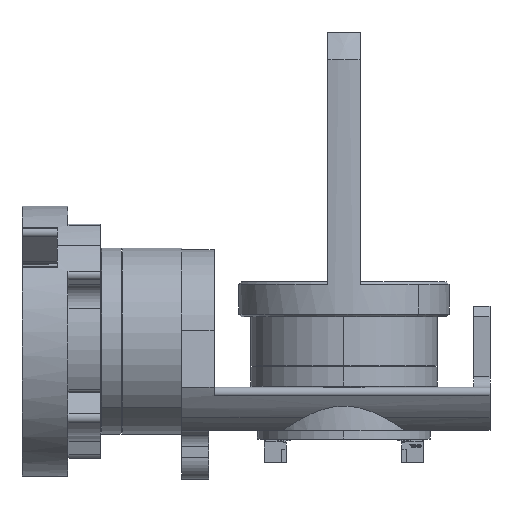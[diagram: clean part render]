
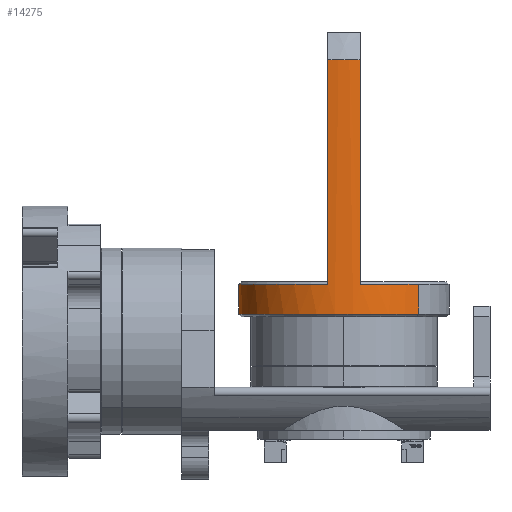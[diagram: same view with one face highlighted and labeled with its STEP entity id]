
A CAD part, left-side view. The second image highlights one B-rep face of the part: STEP entity #14275.
In plain terms, the highlighted cylindrical face has radius 19.5 mm (diameter 39 mm), a partial arc.
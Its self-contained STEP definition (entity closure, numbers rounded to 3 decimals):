
#1001 = AXIS2_PLACEMENT_3D ( 'NONE', #70452, #51198, #52841 ) ;
#13794 = AXIS2_PLACEMENT_3D ( 'NONE', #52822, #41514, #72063 ) ;
#14275 = ADVANCED_FACE ( 'NONE', ( #65257 ), #70720, .T. ) ;
#14288 = ORIENTED_EDGE ( 'NONE', *, *, #21130, .F. ) ;
#14315 = DIRECTION ( 'NONE',  ( 0., -1., 0. ) ) ;
#15088 = AXIS2_PLACEMENT_3D ( 'NONE', #81356, #60918, #24017 ) ;
#15270 = LINE ( 'NONE', #34112, #54639 ) ;
#15764 = DIRECTION ( 'NONE',  ( 0., -1., 0. ) ) ;
#16905 = VECTOR ( 'NONE', #23346, 1000. ) ;
#18787 = CARTESIAN_POINT ( 'NONE',  ( -15.746, 4., 11.503 ) ) ;
#19492 = VERTEX_POINT ( 'NONE', #22738 ) ;
#21130 = EDGE_CURVE ( 'NONE', #24214, #45212, #29617, .T. ) ;
#21418 = CARTESIAN_POINT ( 'NONE',  ( 0., 0., -19.5 ) ) ;
#22148 = CARTESIAN_POINT ( 'NONE',  ( 0., 4., 19.5 ) ) ;
#22193 = EDGE_CURVE ( 'NONE', #48317, #45212, #29872, .T. ) ;
#22253 = VECTOR ( 'NONE', #75291, 1000. ) ;
#22738 = CARTESIAN_POINT ( 'NONE',  ( 0., 4., -19.5 ) ) ;
#23346 = DIRECTION ( 'NONE',  ( 0., -1., 0. ) ) ;
#23794 = LINE ( 'NONE', #74883, #22253 ) ;
#24017 = DIRECTION ( 'NONE',  ( 0., 0., 1. ) ) ;
#24173 = EDGE_LOOP ( 'NONE', ( #24376, #56641, #14288, #56103, #58214, #64907, #42788, #64869 ) ) ;
#24214 = VERTEX_POINT ( 'NONE', #27495 ) ;
#24376 = ORIENTED_EDGE ( 'NONE', *, *, #24501, .F. ) ;
#24501 = EDGE_CURVE ( 'NONE', #48317, #77605, #15270, .T. ) ;
#27495 = CARTESIAN_POINT ( 'NONE',  ( -11.503, 45.5, 15.746 ) ) ;
#29617 = LINE ( 'NONE', #66502, #16905 ) ;
#29872 = CIRCLE ( 'NONE', #13794, 19.5 ) ;
#32755 = CARTESIAN_POINT ( 'NONE',  ( -11.503, 4., 15.746 ) ) ;
#34112 = CARTESIAN_POINT ( 'NONE',  ( 0., 0., 19.5 ) ) ;
#36549 = EDGE_CURVE ( 'NONE', #19492, #59775, #65832, .T. ) ;
#37016 = EDGE_CURVE ( 'NONE', #24214, #49278, #59561, .T. ) ;
#37101 = CIRCLE ( 'NONE', #1001, 19.5 ) ;
#38116 = VECTOR ( 'NONE', #14315, 1000. ) ;
#38211 = EDGE_CURVE ( 'NONE', #49278, #55061, #23794, .T. ) ;
#40009 = CARTESIAN_POINT ( 'NONE',  ( 0., -1.5, -19.5 ) ) ;
#41514 = DIRECTION ( 'NONE',  ( 0., -1., 0. ) ) ;
#42788 = ORIENTED_EDGE ( 'NONE', *, *, #36549, .T. ) ;
#44377 = DIRECTION ( 'NONE',  ( 0., -1., 0. ) ) ;
#44412 = AXIS2_PLACEMENT_3D ( 'NONE', #78226, #44377, #64025 ) ;
#45212 = VERTEX_POINT ( 'NONE', #32755 ) ;
#48317 = VERTEX_POINT ( 'NONE', #22148 ) ;
#48893 = AXIS2_PLACEMENT_3D ( 'NONE', #59737, #15764, #72307 ) ;
#49278 = VERTEX_POINT ( 'NONE', #74673 ) ;
#51198 = DIRECTION ( 'NONE',  ( 0., 1., 0. ) ) ;
#52822 = CARTESIAN_POINT ( 'NONE',  ( 0., 4., 0. ) ) ;
#52841 = DIRECTION ( 'NONE',  ( 0., 0., -1. ) ) ;
#54639 = VECTOR ( 'NONE', #58810, 1000. ) ;
#55061 = VERTEX_POINT ( 'NONE', #18787 ) ;
#56103 = ORIENTED_EDGE ( 'NONE', *, *, #37016, .T. ) ;
#56641 = ORIENTED_EDGE ( 'NONE', *, *, #22193, .T. ) ;
#58214 = ORIENTED_EDGE ( 'NONE', *, *, #38211, .T. ) ;
#58810 = DIRECTION ( 'NONE',  ( 0., -1., 0. ) ) ;
#59561 = CIRCLE ( 'NONE', #48893, 19.5 ) ;
#59737 = CARTESIAN_POINT ( 'NONE',  ( 0., 45.5, 0. ) ) ;
#59775 = VERTEX_POINT ( 'NONE', #40009 ) ;
#60577 = CIRCLE ( 'NONE', #15088, 19.5 ) ;
#60918 = DIRECTION ( 'NONE',  ( 0., -1., 0. ) ) ;
#64025 = DIRECTION ( 'NONE',  ( 0., 0., -1. ) ) ;
#64869 = ORIENTED_EDGE ( 'NONE', *, *, #70054, .T. ) ;
#64907 = ORIENTED_EDGE ( 'NONE', *, *, #79163, .T. ) ;
#65257 = FACE_OUTER_BOUND ( 'NONE', #24173, .T. ) ;
#65832 = LINE ( 'NONE', #21418, #38116 ) ;
#66502 = CARTESIAN_POINT ( 'NONE',  ( -11.503, 50.5, 15.746 ) ) ;
#67832 = CARTESIAN_POINT ( 'NONE',  ( 0., -1.5, 19.5 ) ) ;
#70054 = EDGE_CURVE ( 'NONE', #59775, #77605, #37101, .T. ) ;
#70452 = CARTESIAN_POINT ( 'NONE',  ( 0., -1.5, 0. ) ) ;
#70720 = CYLINDRICAL_SURFACE ( 'NONE', #44412, 19.5 ) ;
#72063 = DIRECTION ( 'NONE',  ( 0., 0., 1. ) ) ;
#72307 = DIRECTION ( 'NONE',  ( 0., 0., 1. ) ) ;
#74673 = CARTESIAN_POINT ( 'NONE',  ( -15.746, 45.5, 11.503 ) ) ;
#74883 = CARTESIAN_POINT ( 'NONE',  ( -15.746, 50.5, 11.503 ) ) ;
#75291 = DIRECTION ( 'NONE',  ( 0., -1., 0. ) ) ;
#77605 = VERTEX_POINT ( 'NONE', #67832 ) ;
#78226 = CARTESIAN_POINT ( 'NONE',  ( 0., 0., 0. ) ) ;
#79163 = EDGE_CURVE ( 'NONE', #55061, #19492, #60577, .T. ) ;
#81356 = CARTESIAN_POINT ( 'NONE',  ( 0., 4., 0. ) ) ;
